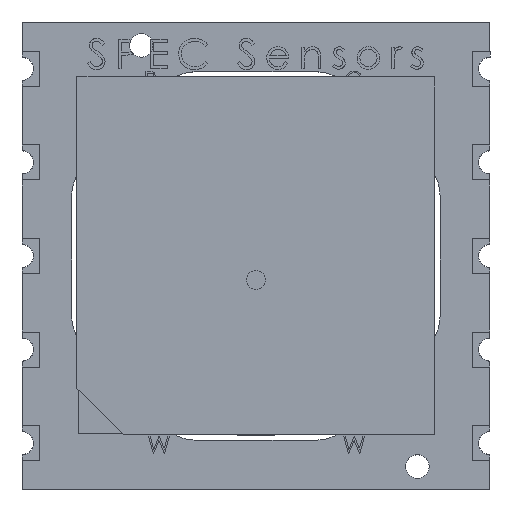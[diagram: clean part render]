
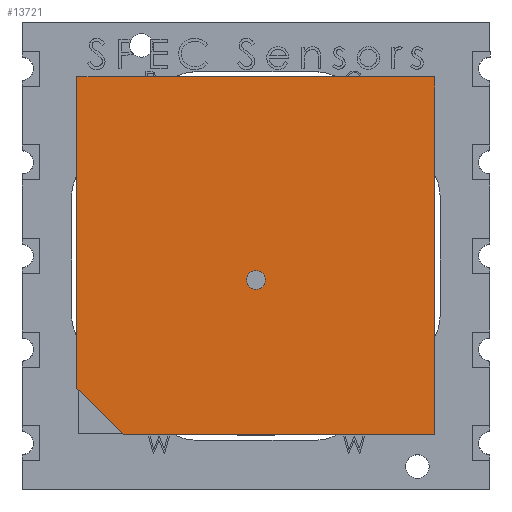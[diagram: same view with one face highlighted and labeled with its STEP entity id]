
A CAD part, top view. The second image highlights one B-rep face of the part: STEP entity #13721.
In plain terms, the highlighted planar face has unit normal (0, 0, 1).
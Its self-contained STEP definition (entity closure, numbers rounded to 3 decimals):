
#399 = DIRECTION ( 'NONE',  ( 0., 0., 1. ) ) ;
#1039 = ORIENTED_EDGE ( 'NONE', *, *, #24597, .T. ) ;
#1390 = CARTESIAN_POINT ( 'NONE',  ( 0., 0., 1.369 ) ) ;
#2575 = DIRECTION ( 'NONE',  ( 1., 0., 0. ) ) ;
#3296 = VECTOR ( 'NONE', #12281, 1000. ) ;
#3633 = PLANE ( 'NONE',  #22724 ) ;
#4025 = DIRECTION ( 'NONE',  ( 0., 1., 0. ) ) ;
#4209 = LINE ( 'NONE', #15790, #27329 ) ;
#4312 = VERTEX_POINT ( 'NONE', #28876 ) ;
#4744 = ORIENTED_EDGE ( 'NONE', *, *, #9182, .T. ) ;
#4940 = EDGE_CURVE ( 'NONE', #13243, #5596, #15718, .T. ) ;
#5596 = VERTEX_POINT ( 'NONE', #14621 ) ;
#6878 = DIRECTION ( 'NONE',  ( -1., 0., 0. ) ) ;
#7381 = EDGE_CURVE ( 'NONE', #4312, #4312, #10056, .T. ) ;
#7474 = ORIENTED_EDGE ( 'NONE', *, *, #7381, .F. ) ;
#7801 = FACE_BOUND ( 'NONE', #28393, .T. ) ;
#7962 = CARTESIAN_POINT ( 'NONE',  ( -4.712, 22.389, 1.369 ) ) ;
#8062 = CARTESIAN_POINT ( 'NONE',  ( -20.012, 22.389, 1.369 ) ) ;
#8624 = EDGE_CURVE ( 'NONE', #5596, #16680, #27669, .T. ) ;
#8697 = CARTESIAN_POINT ( 'NONE',  ( -20.012, 9.089, 1.369 ) ) ;
#8821 = VERTEX_POINT ( 'NONE', #8697 ) ;
#9182 = EDGE_CURVE ( 'NONE', #16680, #13968, #4209, .T. ) ;
#10056 = CIRCLE ( 'NONE', #22767, 0.4 ) ;
#11181 = EDGE_LOOP ( 'NONE', ( #16281, #4744, #22113, #1039, #11843 ) ) ;
#11843 = ORIENTED_EDGE ( 'NONE', *, *, #4940, .T. ) ;
#11915 = CARTESIAN_POINT ( 'NONE',  ( -20.012, 22.389, 1.369 ) ) ;
#12281 = DIRECTION ( 'NONE',  ( 0., -1., 0. ) ) ;
#12613 = DIRECTION ( 'NONE',  ( 0.707, -0.707, 0. ) ) ;
#13243 = VERTEX_POINT ( 'NONE', #17056 ) ;
#13721 = ADVANCED_FACE ( 'NONE', ( #7801, #25354 ), #3633, .T. ) ;
#13734 = CARTESIAN_POINT ( 'NONE',  ( -12.362, 13.714, 1.369 ) ) ;
#13968 = VERTEX_POINT ( 'NONE', #11915 ) ;
#14596 = DIRECTION ( 'NONE',  ( 1., 0., 0. ) ) ;
#14621 = CARTESIAN_POINT ( 'NONE',  ( -4.712, 7.089, 1.369 ) ) ;
#14956 = CARTESIAN_POINT ( 'NONE',  ( -20.012, 9.089, 1.369 ) ) ;
#15718 = LINE ( 'NONE', #24611, #20964 ) ;
#15790 = CARTESIAN_POINT ( 'NONE',  ( -20.012, 22.389, 1.369 ) ) ;
#16281 = ORIENTED_EDGE ( 'NONE', *, *, #8624, .T. ) ;
#16680 = VERTEX_POINT ( 'NONE', #7962 ) ;
#17056 = CARTESIAN_POINT ( 'NONE',  ( -18.012, 7.089, 1.369 ) ) ;
#17070 = DIRECTION ( 'NONE',  ( 0., 0., 1. ) ) ;
#20305 = VECTOR ( 'NONE', #4025, 1000. ) ;
#20964 = VECTOR ( 'NONE', #25779, 1000. ) ;
#21153 = LINE ( 'NONE', #8062, #3296 ) ;
#22113 = ORIENTED_EDGE ( 'NONE', *, *, #28436, .T. ) ;
#22724 = AXIS2_PLACEMENT_3D ( 'NONE', #1390, #17070, #14596 ) ;
#22767 = AXIS2_PLACEMENT_3D ( 'NONE', #13734, #399, #2575 ) ;
#24202 = CARTESIAN_POINT ( 'NONE',  ( -4.712, 22.389, 1.369 ) ) ;
#24597 = EDGE_CURVE ( 'NONE', #8821, #13243, #25157, .T. ) ;
#24611 = CARTESIAN_POINT ( 'NONE',  ( -18.012, 7.089, 1.369 ) ) ;
#25157 = LINE ( 'NONE', #14956, #25878 ) ;
#25354 = FACE_OUTER_BOUND ( 'NONE', #11181, .T. ) ;
#25779 = DIRECTION ( 'NONE',  ( 1., 0., 0. ) ) ;
#25878 = VECTOR ( 'NONE', #12613, 1000. ) ;
#27329 = VECTOR ( 'NONE', #6878, 1000. ) ;
#27669 = LINE ( 'NONE', #24202, #20305 ) ;
#28393 = EDGE_LOOP ( 'NONE', ( #7474 ) ) ;
#28436 = EDGE_CURVE ( 'NONE', #13968, #8821, #21153, .T. ) ;
#28876 = CARTESIAN_POINT ( 'NONE',  ( -11.962, 13.714, 1.369 ) ) ;
